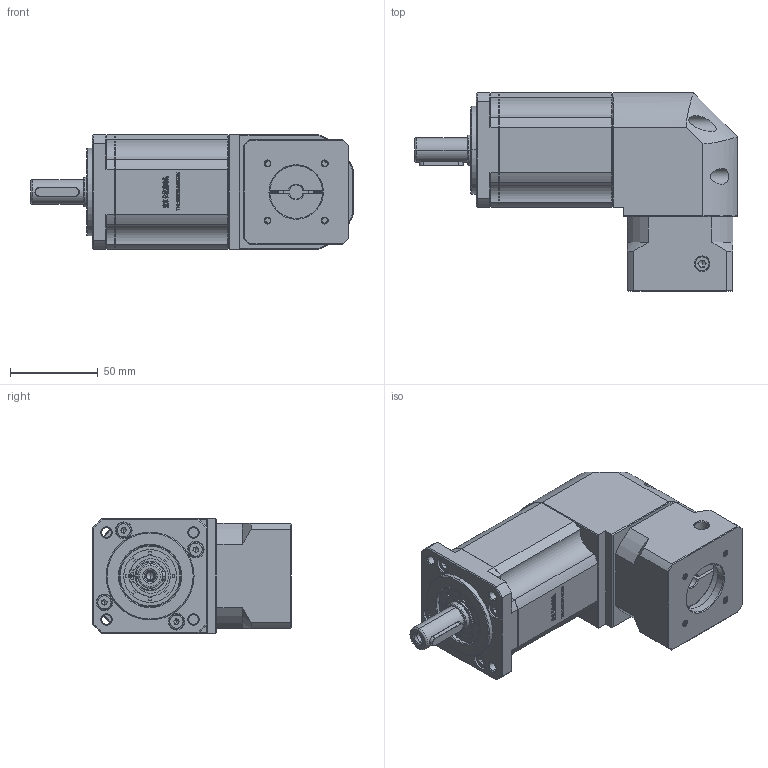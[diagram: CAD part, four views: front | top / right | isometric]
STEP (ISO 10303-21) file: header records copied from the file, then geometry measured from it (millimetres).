
FILE_DESCRIPTION (( 'STEP AP214' ), '1' );
FILE_NAME ('ZBR60-D14-L3-8-30-46-M4.STEP', '2022-04-19T08:15:55', ( '' ), ( 'Microsoft' ), 'SwSTEP 2.0', 'SolidWorks 2016', '' );
FILE_SCHEMA (( 'AUTOMOTIVE_DESIGN' ));
Length unit declared in the file: millimetre
Products named in the file (1): ZBR60-D14-L3-8-30-46-M4
Bounding box: 183.5 x 112.7 x 65 mm (x, y, z)
Volume: 654029.8 mm3; surface area: 87291.3 mm2
Topology: 5 solids, 5 shells, 2887 faces, 7847 edges, 5101 vertices
Faces by surface type: plane 1470, bspline 643, cylinder 416, cone 324, torus 34
Entity records: 176418 total; most frequent: CARTESIAN_POINT 76614, ORIENTED_EDGE 15650, DIRECTION 11684, EDGE_CURVE 7825, VERTEX_POINT 5101, VECTOR 5036, LINE 5036, AXIS2_PLACEMENT_3D 3324
